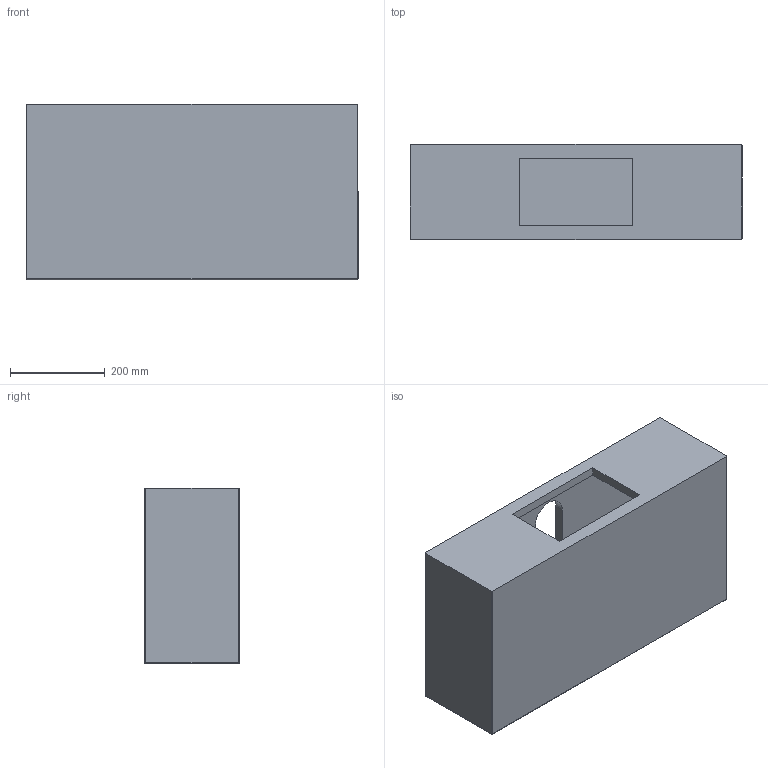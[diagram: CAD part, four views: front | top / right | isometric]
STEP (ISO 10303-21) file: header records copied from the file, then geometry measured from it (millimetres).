
FILE_DESCRIPTION(('CATIA V5 STEP Exchange'),'2;1');
FILE_NAME('C:\Users\Luca\Downloads\mobili next\7534\3D_7534.stp','2023-01-31T14:19:51+00:00',('none'),('none'),'CATIA Version 5 Release 19 SP 5 (IN-10)','CATIA V5 STEP AP214','none');
FILE_SCHEMA(('AUTOMOTIVE_DESIGN { 1 0 10303 214 1 1 1 1 }'));
Length unit declared in the file: millimetre
Products named in the file (1): ART. 7534
Bounding box: 700 x 200 x 370 mm (x, y, z)
Volume: 14620855.9 mm3; surface area: 1665805.6 mm2
Topology: 2 solids, 2 shells, 113 faces, 262 edges, 142 vertices
Faces by surface type: cylinder 44, plane 31, bspline 20, sphere 16, torus 2
Entity records: 4315 total; most frequent: CARTESIAN_POINT 2021, ORIENTED_EDGE 500, DIRECTION 372, EDGE_CURVE 250, AXIS2_PLACEMENT_3D 172, VERTEX_POINT 142, EDGE_LOOP 118, ADVANCED_FACE 113
